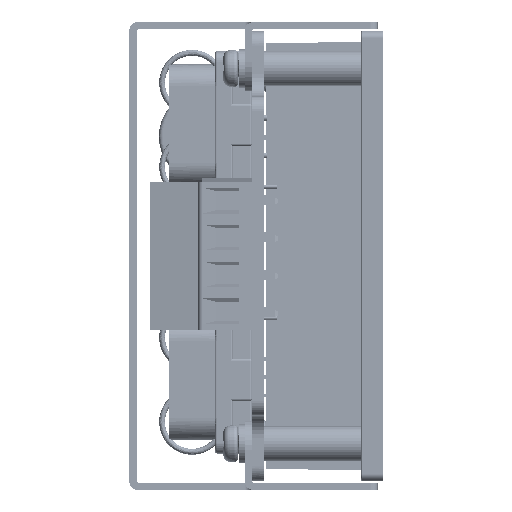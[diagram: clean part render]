
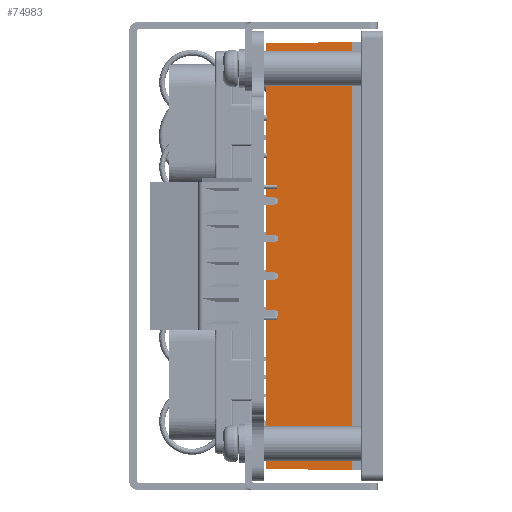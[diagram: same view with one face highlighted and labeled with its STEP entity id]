
A CAD part, left-side view. The second image highlights one B-rep face of the part: STEP entity #74983.
In plain terms, the highlighted planar face has unit normal (-1, 0.009, 0).
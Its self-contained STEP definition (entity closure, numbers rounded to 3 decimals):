
#8564 = CARTESIAN_POINT ( 'NONE',  ( -2.671, 4.2, 28.944 ) ) ;
#9047 = LINE ( 'NONE', #144207, #156372 ) ;
#34251 = VECTOR ( 'NONE', #70259, 1000. ) ;
#54524 = ORIENTED_EDGE ( 'NONE', *, *, #151824, .T. ) ;
#59392 = EDGE_LOOP ( 'NONE', ( #54524, #70830, #151015, #169167 ) ) ;
#65444 = VECTOR ( 'NONE', #241134, 1000. ) ;
#67495 = EDGE_CURVE ( 'NONE', #70449, #133079, #105947, .T. ) ;
#70259 = DIRECTION ( 'NONE',  ( -0.009, -1., 0.009 ) ) ;
#70449 = VERTEX_POINT ( 'NONE', #113690 ) ;
#70830 = ORIENTED_EDGE ( 'NONE', *, *, #282765, .F. ) ;
#74983 = ADVANCED_FACE ( 'NONE', ( #204257 ), #202832, .T. ) ;
#88041 = CARTESIAN_POINT ( 'NONE',  ( -2.671, 4.2, -28.956 ) ) ;
#89037 = LINE ( 'NONE', #110597, #34251 ) ;
#92452 = VECTOR ( 'NONE', #210512, 1000. ) ;
#96324 = DIRECTION ( 'NONE',  ( -1., 0.009, 0. ) ) ;
#104022 = CARTESIAN_POINT ( 'NONE',  ( -2.667, 4.705, -28.952 ) ) ;
#105947 = LINE ( 'NONE', #196558, #65444 ) ;
#110597 = CARTESIAN_POINT ( 'NONE',  ( -2.671, 4.2, 28.944 ) ) ;
#113690 = CARTESIAN_POINT ( 'NONE',  ( -2.57, 15.8, -28.855 ) ) ;
#115081 = DIRECTION ( 'NONE',  ( 0.009, 1., 0. ) ) ;
#121213 = DIRECTION ( 'NONE',  ( 0., 0., 1. ) ) ;
#130647 = VERTEX_POINT ( 'NONE', #150683 ) ;
#132887 = VERTEX_POINT ( 'NONE', #88041 ) ;
#133079 = VERTEX_POINT ( 'NONE', #177199 ) ;
#138340 = AXIS2_PLACEMENT_3D ( 'NONE', #8564, #96324, #115081 ) ;
#144207 = CARTESIAN_POINT ( 'NONE',  ( -2.671, 4.2, 28.944 ) ) ;
#150683 = CARTESIAN_POINT ( 'NONE',  ( -2.671, 4.2, 28.944 ) ) ;
#151015 = ORIENTED_EDGE ( 'NONE', *, *, #67495, .F. ) ;
#151824 = EDGE_CURVE ( 'NONE', #132887, #130647, #9047, .T. ) ;
#156372 = VECTOR ( 'NONE', #121213, 1000. ) ;
#162661 = EDGE_CURVE ( 'NONE', #70449, #132887, #278072, .T. ) ;
#169167 = ORIENTED_EDGE ( 'NONE', *, *, #162661, .T. ) ;
#177199 = CARTESIAN_POINT ( 'NONE',  ( -2.57, 15.8, 28.843 ) ) ;
#196558 = CARTESIAN_POINT ( 'NONE',  ( -2.57, 15.8, 28.944 ) ) ;
#202832 = PLANE ( 'NONE',  #138340 ) ;
#204257 = FACE_OUTER_BOUND ( 'NONE', #59392, .T. ) ;
#210512 = DIRECTION ( 'NONE',  ( -0.009, -1., -0.009 ) ) ;
#241134 = DIRECTION ( 'NONE',  ( 0., 0., 1. ) ) ;
#278072 = LINE ( 'NONE', #104022, #92452 ) ;
#282765 = EDGE_CURVE ( 'NONE', #133079, #130647, #89037, .T. ) ;
